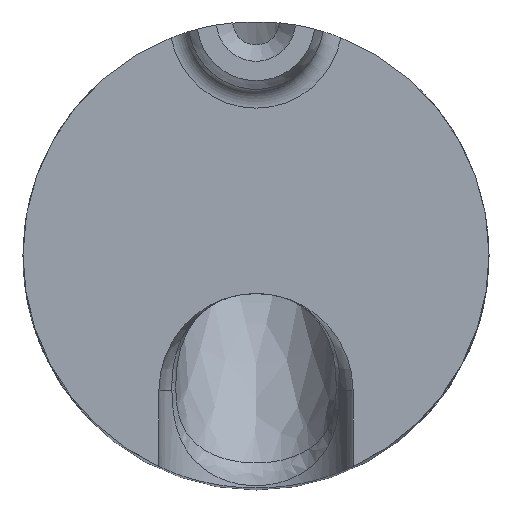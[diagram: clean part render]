
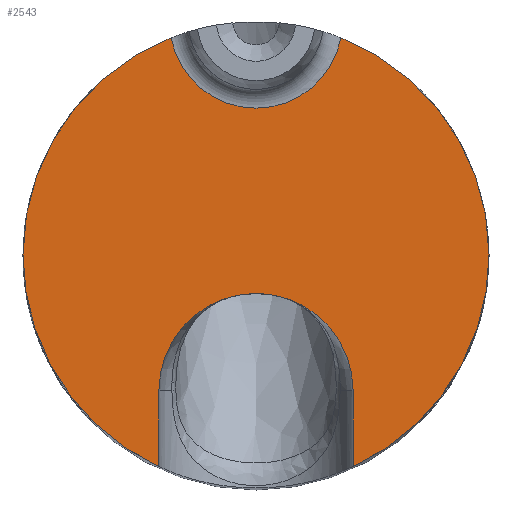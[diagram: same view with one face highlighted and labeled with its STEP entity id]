
A CAD part, top view. The second image highlights one B-rep face of the part: STEP entity #2543.
In plain terms, the highlighted planar face has unit normal (0, 0, 1).
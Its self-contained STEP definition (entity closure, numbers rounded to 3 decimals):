
#31=CARTESIAN_POINT('',(-1.093,-0.206,0.));
#55=CARTESIAN_POINT('',(1.093,-0.206,0.));
#321=CARTESIAN_POINT('',(0.,-3.,0.));
#322=DIRECTION('',(0.,0.,-1.));
#323=DIRECTION('',(-0.417,-0.909,0.));
#324=AXIS2_PLACEMENT_3D('',#321,#322,#323);
#326=CARTESIAN_POINT('',(0.,-3.,0.));
#327=DIRECTION('',(0.,0.,1.));
#328=DIRECTION('',(-0.364,0.931,0.));
#329=AXIS2_PLACEMENT_3D('',#326,#327,#328);
#331=CARTESIAN_POINT('',(0.,-3.,0.));
#332=DIRECTION('',(0.,0.,1.));
#333=DIRECTION('',(1.,0.,0.));
#334=AXIS2_PLACEMENT_3D('',#331,#332,#333);
#336=CARTESIAN_POINT('',(0.,-3.,0.));
#337=DIRECTION('',(0.,0.,-1.));
#338=DIRECTION('',(1.,0.,0.));
#339=AXIS2_PLACEMENT_3D('',#336,#337,#338);
#341=DIRECTION('',(0.,1.,0.));
#342=VECTOR('',#341,0.977);
#343=CARTESIAN_POINT('',(1.25,-5.727,0.));
#344=LINE('',#343,#342);
#345=CARTESIAN_POINT('',(0.,-4.75,0.));
#346=DIRECTION('',(0.,0.,1.));
#347=DIRECTION('',(1.,0.,0.));
#348=AXIS2_PLACEMENT_3D('',#345,#346,#347);
#350=CARTESIAN_POINT('',(0.,-4.75,0.));
#351=DIRECTION('',(0.,0.,-1.));
#352=DIRECTION('',(-1.,0.,0.));
#353=AXIS2_PLACEMENT_3D('',#350,#351,#352);
#355=DIRECTION('',(0.,1.,0.));
#356=VECTOR('',#355,0.977);
#357=CARTESIAN_POINT('',(-1.25,-5.727,0.));
#358=LINE('',#357,#356);
#367=CARTESIAN_POINT('',(-1.25,-5.727,0.));
#386=CARTESIAN_POINT('',(1.25,-5.727,0.));
#1324=CARTESIAN_POINT('',(0.,0.,0.));
#1325=DIRECTION('',(0.,0.,-1.));
#1326=DIRECTION('',(0.983,-0.185,0.));
#1327=AXIS2_PLACEMENT_3D('',#1324,#1325,#1326);
#1605=VERTEX_POINT('',#55);
#1606=VERTEX_POINT('',#31);
#1607=CARTESIAN_POINT('',(3.,-3.,0.));
#1608=VERTEX_POINT('',#1607);
#1609=CARTESIAN_POINT('',(-3.,-3.,0.));
#1610=VERTEX_POINT('',#1609);
#1611=VERTEX_POINT('',#367);
#1612=VERTEX_POINT('',#386);
#1621=CARTESIAN_POINT('',(1.25,-4.75,0.));
#1622=VERTEX_POINT('',#1621);
#1623=CARTESIAN_POINT('',(-1.25,-4.75,0.));
#1624=VERTEX_POINT('',#1623);
#1625=CARTESIAN_POINT('',(0.,-3.5,0.));
#1626=VERTEX_POINT('',#1625);
#2522=CARTESIAN_POINT('',(0.,0.,0.));
#2523=DIRECTION('',(0.,0.,-1.));
#2524=DIRECTION('',(1.,0.,0.));
#2525=AXIS2_PLACEMENT_3D('',#2522,#2523,#2524);
#2526=PLANE('',#2525);
#2528=ORIENTED_EDGE('',*,*,#2527,.T.);
#2529=ORIENTED_EDGE('',*,*,#1883,.F.);
#2531=ORIENTED_EDGE('',*,*,#2530,.F.);
#2532=ORIENTED_EDGE('',*,*,#1923,.F.);
#2534=ORIENTED_EDGE('',*,*,#2533,.T.);
#2536=ORIENTED_EDGE('',*,*,#2535,.T.);
#2537=ORIENTED_EDGE('',*,*,#2508,.T.);
#2538=ORIENTED_EDGE('',*,*,#2517,.F.);
#2540=ORIENTED_EDGE('',*,*,#2539,.F.);
#2541=EDGE_LOOP('',(#2528,#2529,#2531,#2532,#2534,#2536,#2537,#2538,#2540));
#2542=FACE_OUTER_BOUND('',#2541,.F.);
#2543=ADVANCED_FACE('',(#2542),#2526,.F.);
#325=CIRCLE('',#324,3.);
#330=CIRCLE('',#329,3.);
#335=CIRCLE('',#334,3.);
#340=CIRCLE('',#339,3.);
#349=CIRCLE('',#348,1.25);
#354=CIRCLE('',#353,1.25);
#1328=CIRCLE('',#1327,1.113);
#1883=EDGE_CURVE('',#1606,#1610,#330,.T.);
#1923=EDGE_CURVE('',#1608,#1605,#335,.T.);
#2508=EDGE_CURVE('',#1622,#1626,#349,.T.);
#2517=EDGE_CURVE('',#1624,#1626,#354,.T.);
#2527=EDGE_CURVE('',#1611,#1610,#325,.T.);
#2530=EDGE_CURVE('',#1605,#1606,#1328,.T.);
#2533=EDGE_CURVE('',#1608,#1612,#340,.T.);
#2535=EDGE_CURVE('',#1612,#1622,#344,.T.);
#2539=EDGE_CURVE('',#1611,#1624,#358,.T.);
